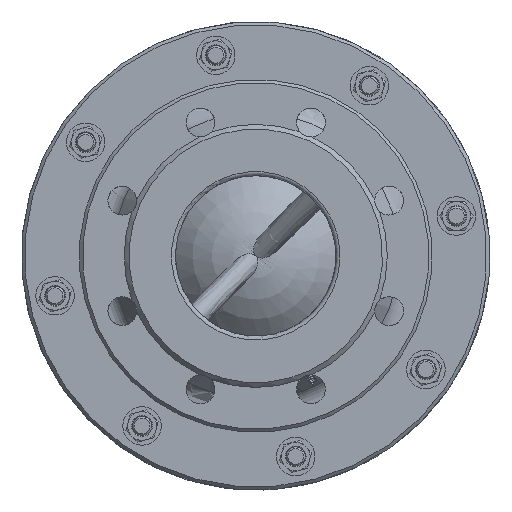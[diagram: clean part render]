
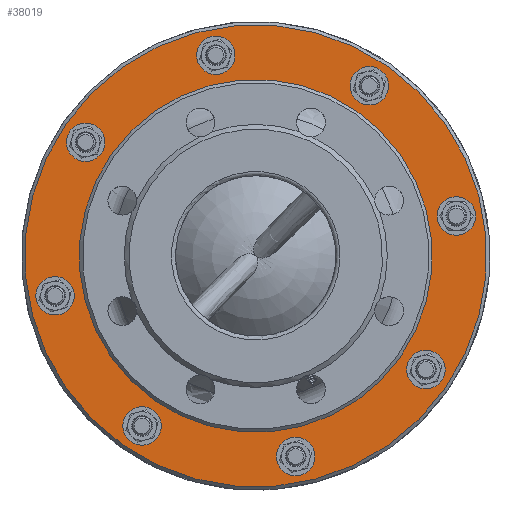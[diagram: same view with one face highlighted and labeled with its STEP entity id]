
A CAD part, front view. The second image highlights one B-rep face of the part: STEP entity #38019.
In plain terms, the highlighted planar face has unit normal (0, -1, 0).
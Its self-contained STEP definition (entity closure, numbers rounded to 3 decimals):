
#5747=PLANE('',#40073);
#13266=ORIENTED_EDGE('',*,*,#17422,.F.);
#13267=ORIENTED_EDGE('',*,*,#17423,.F.);
#13268=ORIENTED_EDGE('',*,*,#17421,.F.);
#13269=ORIENTED_EDGE('',*,*,#17420,.F.);
#13270=ORIENTED_EDGE('',*,*,#17419,.F.);
#13271=ORIENTED_EDGE('',*,*,#17418,.F.);
#13272=ORIENTED_EDGE('',*,*,#17417,.F.);
#13273=ORIENTED_EDGE('',*,*,#17416,.F.);
#13274=ORIENTED_EDGE('',*,*,#17415,.F.);
#13275=ORIENTED_EDGE('',*,*,#17414,.T.);
#17414=EDGE_CURVE('',#20143,#20143,#21020,.T.);
#17415=EDGE_CURVE('',#20144,#20144,#21021,.T.);
#17416=EDGE_CURVE('',#20145,#20145,#21022,.T.);
#17417=EDGE_CURVE('',#20146,#20146,#21023,.T.);
#17418=EDGE_CURVE('',#20147,#20147,#21024,.T.);
#17419=EDGE_CURVE('',#20148,#20148,#21025,.T.);
#17420=EDGE_CURVE('',#20149,#20149,#21026,.T.);
#17421=EDGE_CURVE('',#20150,#20150,#21027,.T.);
#17422=EDGE_CURVE('',#20151,#20151,#21028,.T.);
#17423=EDGE_CURVE('',#20152,#20152,#21029,.T.);
#20143=VERTEX_POINT('',#76492);
#20144=VERTEX_POINT('',#76495);
#20145=VERTEX_POINT('',#76498);
#20146=VERTEX_POINT('',#76501);
#20147=VERTEX_POINT('',#76504);
#20148=VERTEX_POINT('',#76507);
#20149=VERTEX_POINT('',#76510);
#20150=VERTEX_POINT('',#76513);
#20151=VERTEX_POINT('',#76516);
#20152=VERTEX_POINT('',#76519);
#21020=CIRCLE('',#40056,99.521);
#21021=CIRCLE('',#40058,144.);
#21022=CIRCLE('',#40060,12.);
#21023=CIRCLE('',#40062,12.);
#21024=CIRCLE('',#40064,12.);
#21025=CIRCLE('',#40066,12.);
#21026=CIRCLE('',#40068,12.);
#21027=CIRCLE('',#40070,12.);
#21028=CIRCLE('',#40072,12.);
#21029=CIRCLE('',#40074,12.);
#22832=EDGE_LOOP('',(#13266));
#22833=EDGE_LOOP('',(#13267));
#22834=EDGE_LOOP('',(#13268));
#22835=EDGE_LOOP('',(#13269));
#22836=EDGE_LOOP('',(#13270));
#22837=EDGE_LOOP('',(#13271));
#22838=EDGE_LOOP('',(#13272));
#22839=EDGE_LOOP('',(#13273));
#22840=EDGE_LOOP('',(#13274));
#22841=EDGE_LOOP('',(#13275));
#24846=FACE_BOUND('',#22832,.T.);
#24847=FACE_BOUND('',#22833,.T.);
#24848=FACE_BOUND('',#22834,.T.);
#24849=FACE_BOUND('',#22835,.T.);
#24850=FACE_BOUND('',#22836,.T.);
#24851=FACE_BOUND('',#22837,.T.);
#24852=FACE_BOUND('',#22838,.T.);
#24853=FACE_BOUND('',#22839,.T.);
#24854=FACE_BOUND('',#22840,.T.);
#24855=FACE_BOUND('',#22841,.T.);
#38019=ADVANCED_FACE('',(#24846,#24847,#24848,#24849,#24850,#24851,#24852,
#24853,#24854,#24855),#5747,.F.);
#40056=AXIS2_PLACEMENT_3D('',#76491,#45167,#45168);
#40058=AXIS2_PLACEMENT_3D('',#76494,#45171,#45172);
#40060=AXIS2_PLACEMENT_3D('',#76497,#45175,#45176);
#40062=AXIS2_PLACEMENT_3D('',#76500,#45179,#45180);
#40064=AXIS2_PLACEMENT_3D('',#76503,#45183,#45184);
#40066=AXIS2_PLACEMENT_3D('',#76506,#45187,#45188);
#40068=AXIS2_PLACEMENT_3D('',#76509,#45191,#45192);
#40070=AXIS2_PLACEMENT_3D('',#76512,#45195,#45196);
#40072=AXIS2_PLACEMENT_3D('',#76515,#45199,#45200);
#40073=AXIS2_PLACEMENT_3D('',#76517,#45201,#45202);
#40074=AXIS2_PLACEMENT_3D('',#76518,#45203,#45204);
#45167=DIRECTION('',(0.,1.,0.));
#45168=DIRECTION('',(-0.707,0.,-0.707));
#45171=DIRECTION('',(0.,1.,0.));
#45172=DIRECTION('',(-0.707,0.,0.707));
#45175=DIRECTION('',(0.,-1.,0.));
#45176=DIRECTION('',(0.707,0.,-0.707));
#45179=DIRECTION('',(0.,-1.,0.));
#45180=DIRECTION('',(0.707,0.,-0.707));
#45183=DIRECTION('',(0.,-1.,0.));
#45184=DIRECTION('',(0.707,0.,-0.707));
#45187=DIRECTION('',(0.,-1.,0.));
#45188=DIRECTION('',(0.707,0.,-0.707));
#45191=DIRECTION('',(0.,-1.,0.));
#45192=DIRECTION('',(0.707,0.,-0.707));
#45195=DIRECTION('',(0.,-1.,0.));
#45196=DIRECTION('',(0.707,0.,-0.707));
#45199=DIRECTION('',(0.,-1.,0.));
#45200=DIRECTION('',(1.,0.,0.));
#45201=DIRECTION('',(0.,1.,0.));
#45202=DIRECTION('',(-0.707,0.,-0.707));
#45203=DIRECTION('',(0.,-1.,0.));
#45204=DIRECTION('',(0.707,0.,-0.707));
#76491=CARTESIAN_POINT('',(0.,23.,0.));
#76492=CARTESIAN_POINT('',(-70.372,23.,-70.372));
#76494=CARTESIAN_POINT('',(0.,23.,0.));
#76495=CARTESIAN_POINT('',(-101.823,23.,101.823));
#76497=CARTESIAN_POINT('',(106.012,23.,-70.835));
#76498=CARTESIAN_POINT('',(114.498,23.,-79.32));
#76500=CARTESIAN_POINT('',(70.835,23.,106.012));
#76501=CARTESIAN_POINT('',(79.32,23.,97.527));
#76503=CARTESIAN_POINT('',(-24.874,23.,125.05));
#76504=CARTESIAN_POINT('',(-16.389,23.,116.565));
#76506=CARTESIAN_POINT('',(-106.012,23.,70.835));
#76507=CARTESIAN_POINT('',(-97.527,23.,62.35));
#76509=CARTESIAN_POINT('',(-125.05,23.,-24.874));
#76510=CARTESIAN_POINT('',(-116.565,23.,-33.359));
#76512=CARTESIAN_POINT('',(-70.835,23.,-106.012));
#76513=CARTESIAN_POINT('',(-62.35,23.,-114.498));
#76515=CARTESIAN_POINT('',(125.05,23.,24.874));
#76516=CARTESIAN_POINT('',(137.05,23.,24.874));
#76517=CARTESIAN_POINT('',(70.372,23.,70.372));
#76518=CARTESIAN_POINT('',(24.874,23.,-125.05));
#76519=CARTESIAN_POINT('',(33.359,23.,-133.535));
